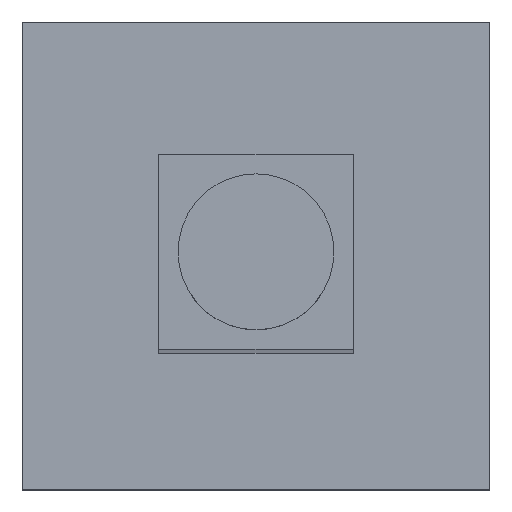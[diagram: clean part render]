
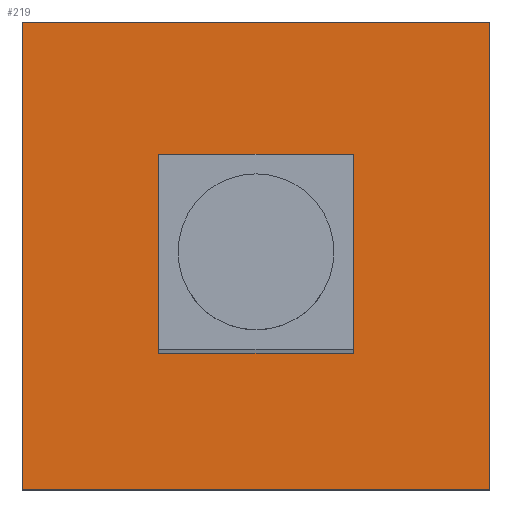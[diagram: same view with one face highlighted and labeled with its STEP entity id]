
A CAD part, top view. The second image highlights one B-rep face of the part: STEP entity #219.
In plain terms, the highlighted planar face has unit normal (0, 0, 1).
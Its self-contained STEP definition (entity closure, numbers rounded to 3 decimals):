
#1 = DIRECTION ( 'NONE',  ( -1., 0., 0. ) ) ;
#2 = VERTEX_POINT ( 'NONE', #19 ) ;
#6 = CARTESIAN_POINT ( 'NONE',  ( -30., 30., 7. ) ) ;
#19 = CARTESIAN_POINT ( 'NONE',  ( -12.5, -12.5, 7. ) ) ;
#31 = LINE ( 'NONE', #167, #106 ) ;
#37 = ORIENTED_EDGE ( 'NONE', *, *, #597, .F. ) ;
#39 = DIRECTION ( 'NONE',  ( -1., 0., 0. ) ) ;
#40 = ORIENTED_EDGE ( 'NONE', *, *, #199, .T. ) ;
#45 = LINE ( 'NONE', #128, #157 ) ;
#46 = CARTESIAN_POINT ( 'NONE',  ( 30., -30., 7. ) ) ;
#51 = CARTESIAN_POINT ( 'NONE',  ( -30., -30., 7. ) ) ;
#54 = LINE ( 'NONE', #84, #61 ) ;
#61 = VECTOR ( 'NONE', #39, 1000. ) ;
#69 = ORIENTED_EDGE ( 'NONE', *, *, #220, .F. ) ;
#78 = VERTEX_POINT ( 'NONE', #51 ) ;
#84 = CARTESIAN_POINT ( 'NONE',  ( -30., 30., 7. ) ) ;
#91 = DIRECTION ( 'NONE',  ( 1., 0., 0. ) ) ;
#106 = VECTOR ( 'NONE', #603, 1000. ) ;
#128 = CARTESIAN_POINT ( 'NONE',  ( -12.5, 12.5, 7. ) ) ;
#140 = AXIS2_PLACEMENT_3D ( 'NONE', #192, #587, #1 ) ;
#148 = ORIENTED_EDGE ( 'NONE', *, *, #313, .T. ) ;
#152 = FACE_OUTER_BOUND ( 'NONE', #273, .T. ) ;
#157 = VECTOR ( 'NONE', #525, 1000. ) ;
#167 = CARTESIAN_POINT ( 'NONE',  ( -12.5, -12.5, 7. ) ) ;
#176 = CARTESIAN_POINT ( 'NONE',  ( 30., 30., 7. ) ) ;
#190 = VERTEX_POINT ( 'NONE', #176 ) ;
#192 = CARTESIAN_POINT ( 'NONE',  ( 30., 30., 7. ) ) ;
#196 = VECTOR ( 'NONE', #367, 1000. ) ;
#199 = EDGE_CURVE ( 'NONE', #218, #78, #618, .T. ) ;
#216 = CARTESIAN_POINT ( 'NONE',  ( 12.5, -12.5, 7. ) ) ;
#217 = FACE_BOUND ( 'NONE', #470, .T. ) ;
#218 = VERTEX_POINT ( 'NONE', #6 ) ;
#219 = ADVANCED_FACE ( 'NONE', ( #152, #217 ), #528, .F. ) ;
#220 = EDGE_CURVE ( 'NONE', #2, #290, #420, .T. ) ;
#230 = CARTESIAN_POINT ( 'NONE',  ( -30., -30., 7. ) ) ;
#243 = EDGE_CURVE ( 'NONE', #535, #190, #451, .T. ) ;
#268 = VECTOR ( 'NONE', #91, 1000. ) ;
#273 = EDGE_LOOP ( 'NONE', ( #498, #452, #40, #148 ) ) ;
#290 = VERTEX_POINT ( 'NONE', #437 ) ;
#300 = VERTEX_POINT ( 'NONE', #480 ) ;
#303 = VECTOR ( 'NONE', #500, 1000. ) ;
#313 = EDGE_CURVE ( 'NONE', #78, #535, #473, .T. ) ;
#367 = DIRECTION ( 'NONE',  ( 1., 0., 0. ) ) ;
#387 = CARTESIAN_POINT ( 'NONE',  ( -12.5, -12.5, 7. ) ) ;
#389 = EDGE_CURVE ( 'NONE', #300, #2, #31, .T. ) ;
#394 = ORIENTED_EDGE ( 'NONE', *, *, #389, .F. ) ;
#420 = LINE ( 'NONE', #387, #268 ) ;
#437 = CARTESIAN_POINT ( 'NONE',  ( 12.5, -12.5, 7. ) ) ;
#438 = CARTESIAN_POINT ( 'NONE',  ( -30., -30., 7. ) ) ;
#444 = EDGE_CURVE ( 'NONE', #290, #600, #591, .T. ) ;
#451 = LINE ( 'NONE', #458, #303 ) ;
#452 = ORIENTED_EDGE ( 'NONE', *, *, #542, .T. ) ;
#458 = CARTESIAN_POINT ( 'NONE',  ( 30., -30., 7. ) ) ;
#470 = EDGE_LOOP ( 'NONE', ( #556, #69, #394, #37 ) ) ;
#472 = VECTOR ( 'NONE', #583, 1000. ) ;
#473 = LINE ( 'NONE', #230, #196 ) ;
#480 = CARTESIAN_POINT ( 'NONE',  ( -12.5, 12.5, 7. ) ) ;
#481 = DIRECTION ( 'NONE',  ( 0., -1., 0. ) ) ;
#498 = ORIENTED_EDGE ( 'NONE', *, *, #243, .T. ) ;
#500 = DIRECTION ( 'NONE',  ( 0., 1., 0. ) ) ;
#518 = VECTOR ( 'NONE', #481, 1000. ) ;
#525 = DIRECTION ( 'NONE',  ( -1., 0., 0. ) ) ;
#528 = PLANE ( 'NONE',  #140 ) ;
#535 = VERTEX_POINT ( 'NONE', #46 ) ;
#542 = EDGE_CURVE ( 'NONE', #190, #218, #54, .T. ) ;
#556 = ORIENTED_EDGE ( 'NONE', *, *, #444, .F. ) ;
#583 = DIRECTION ( 'NONE',  ( 0., 1., 0. ) ) ;
#587 = DIRECTION ( 'NONE',  ( 0., 0., -1. ) ) ;
#591 = LINE ( 'NONE', #216, #472 ) ;
#597 = EDGE_CURVE ( 'NONE', #600, #300, #45, .T. ) ;
#600 = VERTEX_POINT ( 'NONE', #615 ) ;
#603 = DIRECTION ( 'NONE',  ( 0., -1., 0. ) ) ;
#615 = CARTESIAN_POINT ( 'NONE',  ( 12.5, 12.5, 7. ) ) ;
#618 = LINE ( 'NONE', #438, #518 ) ;
